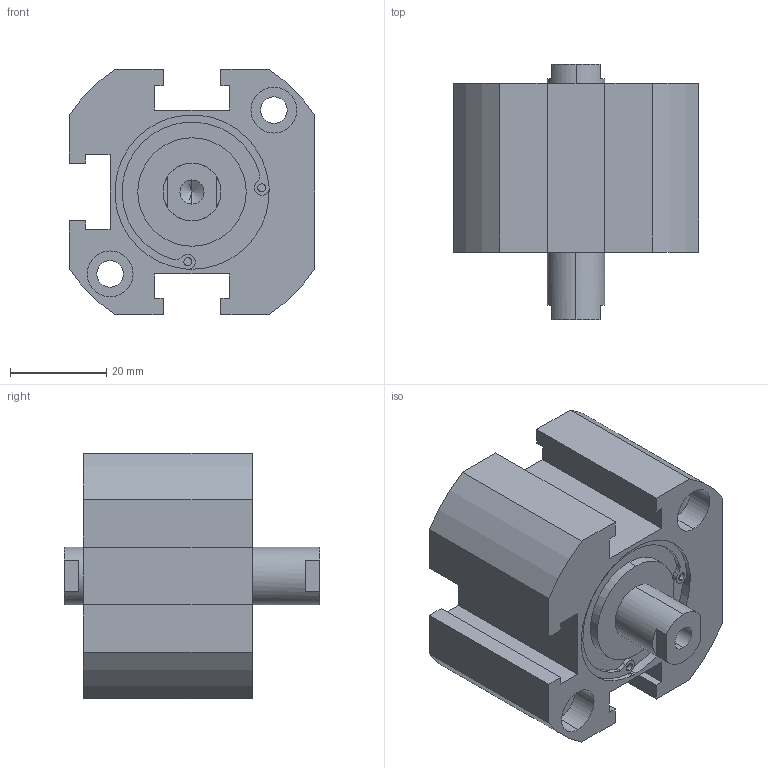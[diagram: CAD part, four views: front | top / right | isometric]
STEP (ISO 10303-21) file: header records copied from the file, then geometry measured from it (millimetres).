
FILE_DESCRIPTION (( 'STEP AP203' ), '1' );
FILE_NAME ('XC#7-32-10.STEP', '2016-05-23T08:24:14', ( '' ), ( '' ), 'SwSTEP 2.0', 'SolidWorks 2014', '' );
FILE_SCHEMA (( 'CONFIG_CONTROL_DESIGN' ));
Length unit declared in the file: millimetre
Products named in the file (1): XC#7-32-10
Bounding box: 51 x 53 x 51 mm (x, y, z)
Volume: 68834.8 mm3; surface area: 16828.1 mm2
Topology: 1 solids, 1 shells, 133 faces, 333 edges, 214 vertices
Faces by surface type: cylinder 65, plane 56, cone 12
Entity records: 4046 total; most frequent: DIRECTION 739, CARTESIAN_POINT 673, ORIENTED_EDGE 650, EDGE_CURVE 325, AXIS2_PLACEMENT_3D 280, VERTEX_POINT 214, LINE 179, VECTOR 179
